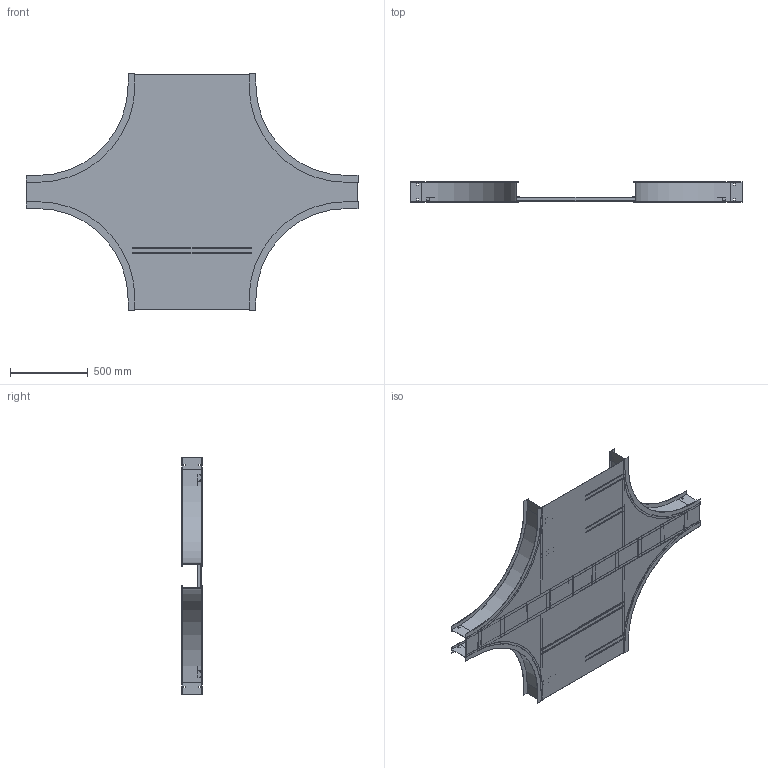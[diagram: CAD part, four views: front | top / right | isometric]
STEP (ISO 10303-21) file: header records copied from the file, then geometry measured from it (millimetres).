
FILE_DESCRIPTION((''),'2;1');
FILE_NAME('AHF50630SEX24_ASM','2010-02-01T',('erouzier'),(''),'PRO/ENGINEER BY PARAMETRIC TECHNOLOGY CORPORATION, 2008510','PRO/ENGINEER BY PARAMETRIC TECHNOLOGY CORPORATION, 2008510','');
FILE_SCHEMA(('CONFIG_CONTROL_DESIGN'));
Length unit declared in the file: inch
Products named in the file (20): CDS001811-5-90-24-I; CDS002159L6_AF10; CDS002159L6_AF11; CDS002159L6_AF12; CDS002159L6_AF13; CDS002159L6_AF19; CDS002159L6_AF14; CDS002159L6_AF15; CDS002159L6_AF16; CDS002159L6_AF18; CDS002159L6_AF17; CDS000495_GEN_AF18; CDS000495_GEN_AF19; CDS000495_GEN_AF22; CDS000495_GEN_AF23; CDS000495_GEN_AF20; CDS000495_GEN_AF21; CDS002159L30; CDS014308-6-24-30; AHF50630SEX24_ASM
Assembly tree (25 placements, depth 2):
  AHF50630SEX24_ASM
    CDS001811-5-90-24-I  x4
    CDS002159L6_AF10
    CDS002159L6_AF11
    CDS002159L6_AF12
    CDS002159L6_AF13
    CDS002159L6_AF19
    CDS002159L6_AF14
    CDS002159L6_AF15
    CDS002159L6_AF16
    CDS002159L6_AF18
    CDS002159L6_AF17
    CDS000495_GEN_AF18
    CDS000495_GEN_AF19
    CDS000495_GEN_AF22
    CDS000495_GEN_AF23
    CDS000495_GEN_AF20
    CDS000495_GEN_AF21
    CDS002159L30  x4
    CDS014308-6-24-30
Bounding box: 2137.66 x 129.03 x 1528.06 mm (x, y, z)
Volume: 5293415.6 mm3; surface area: 7173543.8 mm2
Topology: 25 solids, 25 shells, 666 faces, 1848 edges, 1232 vertices
Faces by surface type: plane 484, cylinder 182
Entity records: 14782 total; most frequent: CARTESIAN_POINT 2555, DIRECTION 2488, ORIENTED_EDGE 2472, EDGE_CURVE 1236, VECTOR 974, LINE 974, VERTEX_POINT 824, AXIS2_PLACEMENT_3D 757
